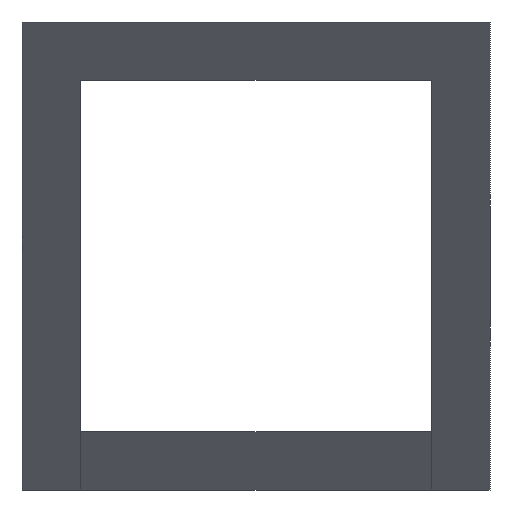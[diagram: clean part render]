
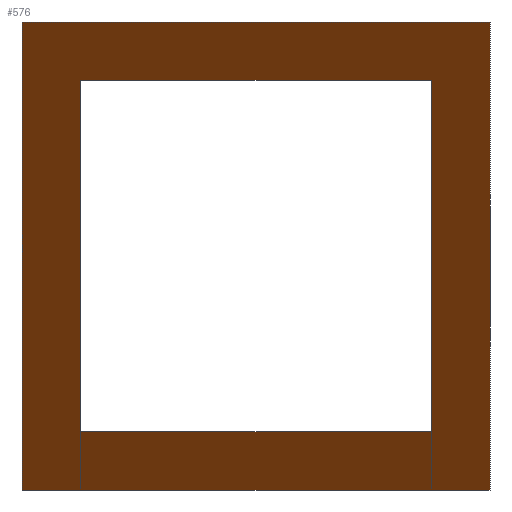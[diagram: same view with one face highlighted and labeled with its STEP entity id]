
A CAD part, front view. The second image highlights one B-rep face of the part: STEP entity #576.
In plain terms, the highlighted planar face has unit normal (0, -0.707, -0.707).
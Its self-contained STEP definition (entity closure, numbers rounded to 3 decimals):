
#22 = VERTEX_POINT('',#23);
#23 = CARTESIAN_POINT('',(547.2,412.413,625.325));
#31 = EDGE_CURVE('',#22,#32,#34,.T.);
#32 = VERTEX_POINT('',#33);
#33 = CARTESIAN_POINT('',(566.25,412.413,625.325));
#34 = LINE('',#35,#36);
#35 = CARTESIAN_POINT('',(547.2,412.413,625.325));
#36 = VECTOR('',#37,1.);
#37 = DIRECTION('',(1.,0.,0.));
#62 = EDGE_CURVE('',#63,#22,#65,.T.);
#63 = VERTEX_POINT('',#64);
#64 = CARTESIAN_POINT('',(547.2,431.463,606.275));
#65 = LINE('',#66,#67);
#66 = CARTESIAN_POINT('',(547.2,563.238,474.5));
#67 = VECTOR('',#68,1.);
#68 = DIRECTION('',(0.,-0.707,0.707));
#79 = VERTEX_POINT('',#80);
#80 = CARTESIAN_POINT('',(547.2,434.638,603.1));
#362 = EDGE_CURVE('',#363,#32,#365,.T.);
#363 = VERTEX_POINT('',#364);
#364 = CARTESIAN_POINT('',(566.25,431.463,606.275));
#365 = LINE('',#366,#367);
#366 = CARTESIAN_POINT('',(566.25,563.238,474.5));
#367 = VECTOR('',#368,1.);
#368 = DIRECTION('',(0.,-0.707,0.707));
#379 = VERTEX_POINT('',#380);
#380 = CARTESIAN_POINT('',(566.25,434.638,603.1));
#576 = ADVANCED_FACE('',(#577,#623),#634,.F.);
#577 = FACE_BOUND('',#578,.F.);
#578 = EDGE_LOOP('',(#579,#587,#593,#601,#609,#617));
#579 = ORIENTED_EDGE('',*,*,#580,.F.);
#580 = EDGE_CURVE('',#379,#581,#583,.T.);
#581 = VERTEX_POINT('',#582);
#582 = CARTESIAN_POINT('',(569.425,434.638,603.1));
#583 = LINE('',#584,#585);
#584 = CARTESIAN_POINT('',(543.025,434.638,603.1));
#585 = VECTOR('',#586,1.);
#586 = DIRECTION('',(1.,0.,0.));
#587 = ORIENTED_EDGE('',*,*,#588,.F.);
#588 = EDGE_CURVE('',#79,#379,#589,.T.);
#589 = LINE('',#590,#591);
#590 = CARTESIAN_POINT('',(543.363,434.638,603.1));
#591 = VECTOR('',#592,1.);
#592 = DIRECTION('',(1.,0.,0.));
#593 = ORIENTED_EDGE('',*,*,#594,.F.);
#594 = EDGE_CURVE('',#595,#79,#597,.T.);
#595 = VERTEX_POINT('',#596);
#596 = CARTESIAN_POINT('',(544.025,434.638,603.1));
#597 = LINE('',#598,#599);
#598 = CARTESIAN_POINT('',(543.025,434.638,603.1));
#599 = VECTOR('',#600,1.);
#600 = DIRECTION('',(1.,0.,0.));
#601 = ORIENTED_EDGE('',*,*,#602,.T.);
#602 = EDGE_CURVE('',#595,#603,#605,.T.);
#603 = VERTEX_POINT('',#604);
#604 = CARTESIAN_POINT('',(544.025,409.238,628.5));
#605 = LINE('',#606,#607);
#606 = CARTESIAN_POINT('',(544.025,563.238,474.5));
#607 = VECTOR('',#608,1.);
#608 = DIRECTION('',(0.,-0.707,0.707));
#609 = ORIENTED_EDGE('',*,*,#610,.T.);
#610 = EDGE_CURVE('',#603,#611,#613,.T.);
#611 = VERTEX_POINT('',#612);
#612 = CARTESIAN_POINT('',(569.425,409.238,628.5));
#613 = LINE('',#614,#615);
#614 = CARTESIAN_POINT('',(544.025,409.238,628.5));
#615 = VECTOR('',#616,1.);
#616 = DIRECTION('',(1.,0.,0.));
#617 = ORIENTED_EDGE('',*,*,#618,.F.);
#618 = EDGE_CURVE('',#581,#611,#619,.T.);
#619 = LINE('',#620,#621);
#620 = CARTESIAN_POINT('',(569.425,563.238,474.5));
#621 = VECTOR('',#622,1.);
#622 = DIRECTION('',(0.,-0.707,0.707));
#623 = FACE_BOUND('',#624,.F.);
#624 = EDGE_LOOP('',(#625,#626,#627,#633));
#625 = ORIENTED_EDGE('',*,*,#31,.F.);
#626 = ORIENTED_EDGE('',*,*,#62,.F.);
#627 = ORIENTED_EDGE('',*,*,#628,.T.);
#628 = EDGE_CURVE('',#63,#363,#629,.T.);
#629 = LINE('',#630,#631);
#630 = CARTESIAN_POINT('',(544.025,431.463,606.275));
#631 = VECTOR('',#632,1.);
#632 = DIRECTION('',(1.,0.,0.));
#633 = ORIENTED_EDGE('',*,*,#362,.T.);
#634 = PLANE('',#635);
#635 = AXIS2_PLACEMENT_3D('',#636,#637,#638);
#636 = CARTESIAN_POINT('',(530.,404.238,633.5));
#637 = DIRECTION('',(0.,0.707,0.707));
#638 = DIRECTION('',(0.,0.707,-0.707));
